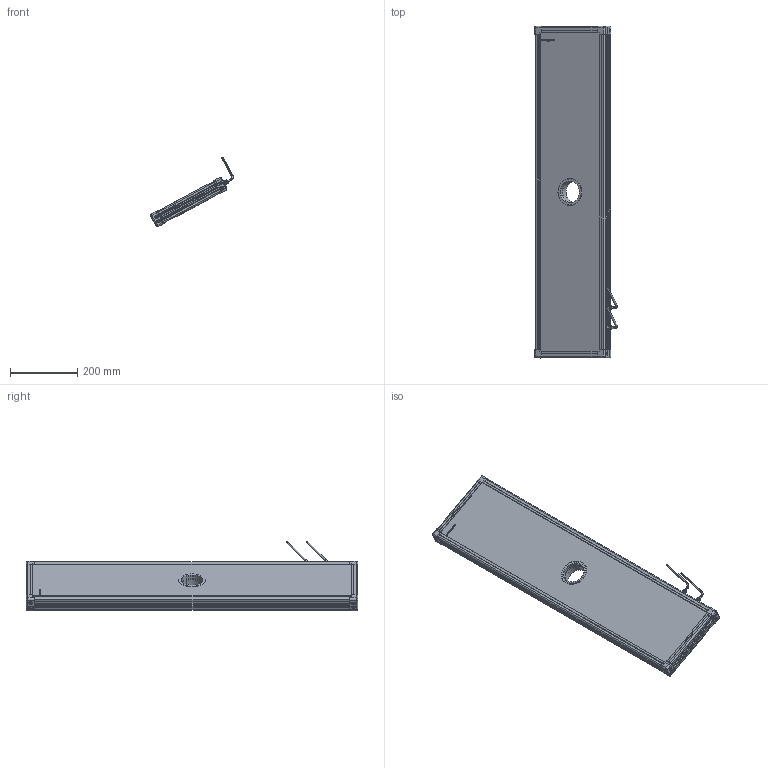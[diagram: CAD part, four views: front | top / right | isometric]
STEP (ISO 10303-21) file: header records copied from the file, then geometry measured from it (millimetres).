
FILE_DESCRIPTION (( 'STEP AP214' ), '1' );
FILE_NAME ('EFFI-FD-200-950-ZZZ-2M12.STEP', '2021-06-23T10:23:10', ( '' ), ( '' ), 'SwSTEP 2.0', 'SolidWorks 2021', '' );
FILE_SCHEMA (( 'AUTOMOTIVE_DESIGN' ));
Length unit declared in the file: millimetre
Products named in the file (13): Pièce13^EFFI-FD-XXX-YYY-ZZZ (2 connecteurs) Ø65; profile Y_PERCE; petite joue; cordon_Avec cable; 004409; Assemblage Ø65; 000629; EFFI-FD-200-950-ZZZ-2M12; petite joue + vis; 004408; 000590; profile X_PERCE
Assembly tree (20 placements, depth 3):
  EFFI-FD-200-950-ZZZ-2M12
    profile X_PERCE  x2
    profile Y_PERCE
    profile Y_PERCE
    Pièce13^EFFI-FD-XXX-YYY-ZZZ (2 connecteurs) Ø65
    petite joue + vis  x4
      petite joue
      000629
    Assemblage Ø65
      004408
      004409
      000590  x3
    cordon_Avec cable  x2
Bounding box: 246.18 x 989 x 206.68 mm (x, y, z)
Volume: 8031569.7 mm3; surface area: 869717 mm2
Topology: 22 solids, 34 shells, 4049 faces, 10756 edges, 7058 vertices
Faces by surface type: plane 2496, cylinder 741, bspline 603, cone 156, torus 45, sphere 8
Entity records: 57059 total; most frequent: CARTESIAN_POINT 22766, ORIENTED_EDGE 7140, DIRECTION 5899, EDGE_CURVE 3574, VECTOR 2493, LINE 2493, VERTEX_POINT 2349, AXIS2_PLACEMENT_3D 1703
